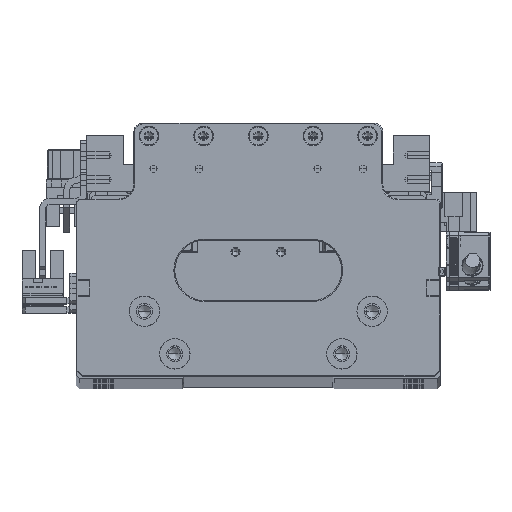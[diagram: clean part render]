
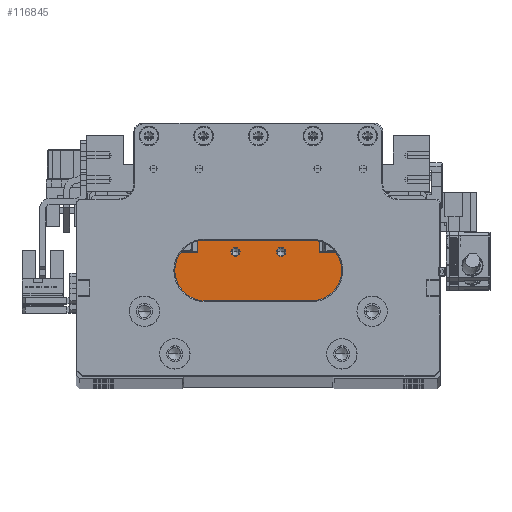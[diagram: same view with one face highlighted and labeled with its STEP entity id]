
A CAD part, top view. The second image highlights one B-rep face of the part: STEP entity #116845.
In plain terms, the highlighted planar face has unit normal (0, 0, 1).
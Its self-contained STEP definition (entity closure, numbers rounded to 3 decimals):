
#1451 = VERTEX_POINT ( 'NONE', #12589 ) ;
#3485 = LINE ( 'NONE', #116988, #116110 ) ;
#4299 = LINE ( 'NONE', #62603, #26443 ) ;
#5407 = CARTESIAN_POINT ( 'NONE',  ( -52.725, 71.48, 462.722 ) ) ;
#6732 = DIRECTION ( 'NONE',  ( 1., 0., 0. ) ) ;
#8070 = CARTESIAN_POINT ( 'NONE',  ( -75.125, 79.08, 462.722 ) ) ;
#8792 = ORIENTED_EDGE ( 'NONE', *, *, #109200, .F. ) ;
#9079 = DIRECTION ( 'NONE',  ( 0., -1., 0. ) ) ;
#11161 = ORIENTED_EDGE ( 'NONE', *, *, #136365, .F. ) ;
#11641 = CARTESIAN_POINT ( 'NONE',  ( -112.525, 78.98, 462.722 ) ) ;
#11890 = VERTEX_POINT ( 'NONE', #12201 ) ;
#12201 = CARTESIAN_POINT ( 'NONE',  ( -52.725, 59.78, 462.722 ) ) ;
#12589 = CARTESIAN_POINT ( 'NONE',  ( -91.65, 79.08, 462.722 ) ) ;
#12890 = ORIENTED_EDGE ( 'NONE', *, *, #91966, .F. ) ;
#13259 = VERTEX_POINT ( 'NONE', #93323 ) ;
#13301 = CARTESIAN_POINT ( 'NONE',  ( -76.65, 79.08, 462.722 ) ) ;
#13834 = ORIENTED_EDGE ( 'NONE', *, *, #34443, .T. ) ;
#15266 = CIRCLE ( 'NONE', #120220, 1.525 ) ;
#18599 = CARTESIAN_POINT ( 'NONE',  ( -73.6, 79.08, 462.722 ) ) ;
#18679 = ORIENTED_EDGE ( 'NONE', *, *, #34843, .F. ) ;
#19048 = DIRECTION ( 'NONE',  ( 1., 0., 0. ) ) ;
#20285 = EDGE_CURVE ( 'NONE', #96722, #114974, #91217, .T. ) ;
#23542 = VERTEX_POINT ( 'NONE', #111777 ) ;
#25081 = PLANE ( 'NONE',  #30978 ) ;
#26443 = VECTOR ( 'NONE', #73548, 1000. ) ;
#30574 = FACE_BOUND ( 'NONE', #41374, .T. ) ;
#30978 = AXIS2_PLACEMENT_3D ( 'NONE', #123736, #58357, #134719 ) ;
#32950 = LINE ( 'NONE', #52849, #106321 ) ;
#34443 = EDGE_CURVE ( 'NONE', #42025, #11890, #86690, .T. ) ;
#34843 = EDGE_CURVE ( 'NONE', #1451, #23542, #15266, .T. ) ;
#36134 = DIRECTION ( 'NONE',  ( 0., 0., 1. ) ) ;
#36151 = VERTEX_POINT ( 'NONE', #74046 ) ;
#37227 = VERTEX_POINT ( 'NONE', #92851 ) ;
#40417 = DIRECTION ( 'NONE',  ( 0., 0., 1. ) ) ;
#40463 = AXIS2_PLACEMENT_3D ( 'NONE', #8070, #84278, #19048 ) ;
#41206 = EDGE_CURVE ( 'NONE', #13259, #88359, #32950, .T. ) ;
#41374 = EDGE_LOOP ( 'NONE', ( #61141, #75485 ) ) ;
#42025 = VERTEX_POINT ( 'NONE', #44960 ) ;
#42672 = EDGE_CURVE ( 'NONE', #114974, #96722, #100766, .T. ) ;
#44960 = CARTESIAN_POINT ( 'NONE',  ( -112.525, 59.78, 462.722 ) ) ;
#45253 = CARTESIAN_POINT ( 'NONE',  ( -75.125, 79.08, 462.722 ) ) ;
#46045 = VECTOR ( 'NONE', #79064, 1000. ) ;
#48333 = VECTOR ( 'NONE', #81604, 1000. ) ;
#48812 = VERTEX_POINT ( 'NONE', #11641 ) ;
#52653 = CIRCLE ( 'NONE', #103848, 1.525 ) ;
#52849 = CARTESIAN_POINT ( 'NONE',  ( -62.625, 71.48, 462.722 ) ) ;
#56217 = DIRECTION ( 'NONE',  ( 1., 0., 0. ) ) ;
#56875 = AXIS2_PLACEMENT_3D ( 'NONE', #45253, #121597, #56217 ) ;
#57306 = CARTESIAN_POINT ( 'NONE',  ( -112.525, 71.48, 462.722 ) ) ;
#58357 = DIRECTION ( 'NONE',  ( 0., 0., -1. ) ) ;
#61141 = ORIENTED_EDGE ( 'NONE', *, *, #42672, .F. ) ;
#62222 = ORIENTED_EDGE ( 'NONE', *, *, #114772, .F. ) ;
#62603 = CARTESIAN_POINT ( 'NONE',  ( -90.125, 78.98, 462.722 ) ) ;
#67025 = EDGE_CURVE ( 'NONE', #48812, #36151, #108110, .T. ) ;
#71680 = EDGE_CURVE ( 'NONE', #80828, #13259, #3485, .T. ) ;
#72372 = LINE ( 'NONE', #57306, #133864 ) ;
#73548 = DIRECTION ( 'NONE',  ( 1., 0., 0. ) ) ;
#74046 = CARTESIAN_POINT ( 'NONE',  ( -102.625, 78.98, 462.722 ) ) ;
#75485 = ORIENTED_EDGE ( 'NONE', *, *, #20285, .F. ) ;
#75914 = EDGE_CURVE ( 'NONE', #42025, #48812, #72372, .T. ) ;
#76293 = EDGE_LOOP ( 'NONE', ( #12890, #18679 ) ) ;
#77267 = LINE ( 'NONE', #5407, #48333 ) ;
#79006 = VECTOR ( 'NONE', #6732, 1000. ) ;
#79064 = DIRECTION ( 'NONE',  ( 0., 1., 0. ) ) ;
#79504 = ORIENTED_EDGE ( 'NONE', *, *, #67025, .F. ) ;
#80828 = VERTEX_POINT ( 'NONE', #133341 ) ;
#81604 = DIRECTION ( 'NONE',  ( 0., -1., 0. ) ) ;
#84278 = DIRECTION ( 'NONE',  ( 0., 0., 1. ) ) ;
#85080 = FACE_OUTER_BOUND ( 'NONE', #125425, .T. ) ;
#86690 = LINE ( 'NONE', #127329, #112319 ) ;
#88359 = VERTEX_POINT ( 'NONE', #140357 ) ;
#90062 = CARTESIAN_POINT ( 'NONE',  ( -102.625, 71.48, 462.722 ) ) ;
#91217 = CIRCLE ( 'NONE', #40463, 1.525 ) ;
#91966 = EDGE_CURVE ( 'NONE', #23542, #1451, #52653, .T. ) ;
#92851 = CARTESIAN_POINT ( 'NONE',  ( -52.725, 78.98, 462.722 ) ) ;
#93323 = CARTESIAN_POINT ( 'NONE',  ( -62.625, 82.98, 462.722 ) ) ;
#93404 = CARTESIAN_POINT ( 'NONE',  ( -90.125, 78.98, 462.722 ) ) ;
#96722 = VERTEX_POINT ( 'NONE', #13301 ) ;
#99168 = ORIENTED_EDGE ( 'NONE', *, *, #75914, .F. ) ;
#100766 = CIRCLE ( 'NONE', #56875, 1.525 ) ;
#101423 = CARTESIAN_POINT ( 'NONE',  ( -90.125, 79.08, 462.722 ) ) ;
#103848 = AXIS2_PLACEMENT_3D ( 'NONE', #105753, #40417, #116739 ) ;
#105753 = CARTESIAN_POINT ( 'NONE',  ( -90.125, 79.08, 462.722 ) ) ;
#106321 = VECTOR ( 'NONE', #9079, 1000. ) ;
#108110 = LINE ( 'NONE', #93404, #79006 ) ;
#109200 = EDGE_CURVE ( 'NONE', #88359, #37227, #4299, .T. ) ;
#110665 = FACE_BOUND ( 'NONE', #76293, .T. ) ;
#111777 = CARTESIAN_POINT ( 'NONE',  ( -88.6, 79.08, 462.722 ) ) ;
#112319 = VECTOR ( 'NONE', #138316, 1000. ) ;
#112403 = DIRECTION ( 'NONE',  ( 1., 0., 0. ) ) ;
#114772 = EDGE_CURVE ( 'NONE', #36151, #80828, #136581, .T. ) ;
#114974 = VERTEX_POINT ( 'NONE', #18599 ) ;
#115072 = ORIENTED_EDGE ( 'NONE', *, *, #71680, .F. ) ;
#116110 = VECTOR ( 'NONE', #127968, 1000. ) ;
#116739 = DIRECTION ( 'NONE',  ( 1., 0., 0. ) ) ;
#116845 = ADVANCED_FACE ( 'NONE', ( #85080, #30574, #110665 ), #25081, .F. ) ;
#116988 = CARTESIAN_POINT ( 'NONE',  ( -90.125, 82.98, 462.722 ) ) ;
#120220 = AXIS2_PLACEMENT_3D ( 'NONE', #101423, #36134, #112403 ) ;
#121597 = DIRECTION ( 'NONE',  ( 0., 0., 1. ) ) ;
#122675 = DIRECTION ( 'NONE',  ( 0., 1., 0. ) ) ;
#123736 = CARTESIAN_POINT ( 'NONE',  ( -90.125, 71.48, 462.722 ) ) ;
#125425 = EDGE_LOOP ( 'NONE', ( #79504, #99168, #13834, #11161, #8792, #137133, #115072, #62222 ) ) ;
#127329 = CARTESIAN_POINT ( 'NONE',  ( -90.125, 59.78, 462.722 ) ) ;
#127968 = DIRECTION ( 'NONE',  ( 1., 0., 0. ) ) ;
#133341 = CARTESIAN_POINT ( 'NONE',  ( -102.625, 82.98, 462.722 ) ) ;
#133864 = VECTOR ( 'NONE', #122675, 1000. ) ;
#134719 = DIRECTION ( 'NONE',  ( -1., 0., 0. ) ) ;
#136365 = EDGE_CURVE ( 'NONE', #37227, #11890, #77267, .T. ) ;
#136581 = LINE ( 'NONE', #90062, #46045 ) ;
#137133 = ORIENTED_EDGE ( 'NONE', *, *, #41206, .F. ) ;
#138316 = DIRECTION ( 'NONE',  ( 1., 0., 0. ) ) ;
#140357 = CARTESIAN_POINT ( 'NONE',  ( -62.625, 78.98, 462.722 ) ) ;
